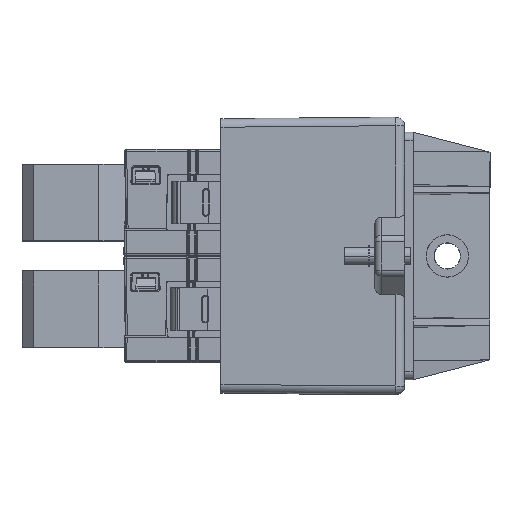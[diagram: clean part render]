
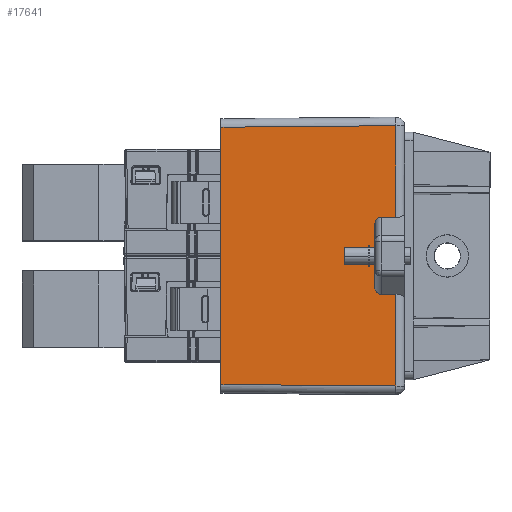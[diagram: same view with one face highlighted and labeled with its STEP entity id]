
A CAD part, top view. The second image highlights one B-rep face of the part: STEP entity #17641.
In plain terms, the highlighted planar face has unit normal (-0.009, 0, 1) as drawn and (-1, 0, -0.009) by its records, which use the part's own axes.
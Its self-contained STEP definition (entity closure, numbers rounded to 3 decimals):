
#9426=CARTESIAN_POINT(' ',(-21.219,-2.125,-3.5));
#9427=VERTEX_POINT(' ',#9426);
#9571=CARTESIAN_POINT(' ',(-21.219,2.125,-3.5));
#9572=VERTEX_POINT(' ',#9571);
#9586=CARTESIAN_POINT(' ',(-21.219,2.125,-3.5));
#9591=DIRECTION(' ',(0.,-1.,0.));
#9596=VECTOR(' ',#9591,1.);
#9601=LINE('',#9586,#9596);
#9606=EDGE_CURVE(' ',#9572,#9427,#9601,.T.);
#11571=CARTESIAN_POINT(' ',(-21.232,9.,-2.017));
#11572=VERTEX_POINT(' ',#11571);
#11616=CARTESIAN_POINT(' ',(-21.232,30.482,-2.017));
#11617=VERTEX_POINT(' ',#11616);
#11631=CARTESIAN_POINT(' ',(-21.232,9.,-2.017));
#11636=DIRECTION(' ',(0.,1.,0.));
#11641=VECTOR(' ',#11636,1.);
#11646=LINE('',#11631,#11641);
#11651=EDGE_CURVE(' ',#11572,#11617,#11646,.T.);
#11721=CARTESIAN_POINT(' ',(-21.202,9.,-5.505));
#11722=VERTEX_POINT(' ',#11721);
#11781=CARTESIAN_POINT(' ',(-21.202,9.,-5.505));
#11786=DIRECTION(' ',(-0.009,0.,1.));
#11791=VECTOR(' ',#11786,1.);
#11796=LINE('',#11781,#11791);
#11801=EDGE_CURVE(' ',#11722,#11572,#11796,.T.);
#12236=CARTESIAN_POINT(' ',(-21.202,-9.,-5.505));
#12237=VERTEX_POINT(' ',#12236);
#12251=CARTESIAN_POINT(' ',(-21.202,-9.,-5.505));
#12256=DIRECTION(' ',(-0.009,0.,1.));
#12261=VECTOR(' ',#12256,1.);
#12266=LINE('',#12251,#12261);
#12271=CARTESIAN_POINT(' ',(-21.232,-9.,-2.017));
#12272=VERTEX_POINT(' ',#12271);
#12276=EDGE_CURVE(' ',#12237,#12272,#12266,.T.);
#12381=CARTESIAN_POINT(' ',(-21.232,-30.482,-2.017));
#12386=DIRECTION(' ',(0.,1.,0.));
#12391=VECTOR(' ',#12386,1.);
#12396=LINE('',#12381,#12391);
#12401=CARTESIAN_POINT(' ',(-21.232,-30.482,-2.017));
#12402=VERTEX_POINT(' ',#12401);
#12406=EDGE_CURVE(' ',#12402,#12272,#12396,.T.);
#14106=CARTESIAN_POINT(' ',(-21.189,-2.143,-7.));
#14107=VERTEX_POINT(' ',#14106);
#14161=CARTESIAN_POINT(' ',(-21.219,-2.125,-3.5));
#14166=DIRECTION(' ',(0.009,-0.005,-1.));
#14171=VECTOR(' ',#14166,1.);
#14176=LINE('',#14161,#14171);
#14181=EDGE_CURVE(' ',#9427,#14107,#14176,.T.);
#14596=CARTESIAN_POINT(' ',(-21.189,2.143,-7.));
#14597=VERTEX_POINT(' ',#14596);
#14611=CARTESIAN_POINT(' ',(-21.219,2.125,-3.5));
#14616=DIRECTION(' ',(0.009,0.005,-1.));
#14621=VECTOR(' ',#14616,1.);
#14626=LINE('',#14611,#14621);
#14631=EDGE_CURVE(' ',#9572,#14597,#14626,.T.);
#16891=CARTESIAN_POINT(' ',(-21.232,30.482,-2.017));
#16896=DIRECTION(' ',(0.009,-0.009,-1.));
#16901=VECTOR(' ',#16896,1.);
#16906=LINE('',#16891,#16901);
#16911=CARTESIAN_POINT(' ',(-20.875,30.125,-43.));
#16912=VERTEX_POINT(' ',#16911);
#16916=EDGE_CURVE(' ',#11617,#16912,#16906,.T.);
#17331=DIRECTION(' ',(-1.,0.,-0.009));
#17336=CARTESIAN_POINT(' ',(-20.875,-30.482,-43.));
#17341=DIRECTION(' ',(-0.009,0.,1.));
#17346=AXIS2_PLACEMENT_3D(' ',#17336,#17331,#17341);
#17351=PLANE('NONE',#17346);
#17356=ORIENTED_EDGE(' ',*,*,#14181,.F.);
#17361=ORIENTED_EDGE(' ',*,*,#9606,.F.);
#17366=ORIENTED_EDGE(' ',*,*,#14631,.T.);
#17371=CARTESIAN_POINT(' ',(-21.189,2.143,-7.));
#17376=DIRECTION(' ',(0.,1.,0.));
#17381=VECTOR(' ',#17376,1.);
#17386=LINE('',#17371,#17381);
#17391=CARTESIAN_POINT(' ',(-21.189,7.351,-7.));
#17392=VERTEX_POINT(' ',#17391);
#17396=EDGE_CURVE(' ',#14597,#17392,#17386,.T.);
#17401=ORIENTED_EDGE(' ',*,*,#17396,.T.);
#17406=CARTESIAN_POINT(' ',(-21.189,7.351,-7.));
#17411=CARTESIAN_POINT(' ',(-21.189,7.691,-7.));
#17416=CARTESIAN_POINT(' ',(-21.19,8.08,-6.89));
#17421=CARTESIAN_POINT(' ',(-21.194,8.675,-6.461));
#17426=CARTESIAN_POINT(' ',(-21.196,8.891,-6.133));
#17431=CARTESIAN_POINT(' ',(-21.2,8.989,-5.709));
#17436=CARTESIAN_POINT(' ',(-21.201,9.,-5.606));
#17441=CARTESIAN_POINT(' ',(-21.202,9.,-5.505));
#17446=B_SPLINE_CURVE_WITH_KNOTS('',3,(#17406,#17411,#17416,#17421,#17426,#17431,#17436,#17441),.UNSPECIFIED.,.F.,.U.,(4,2,2,4),(0.,0.43,0.86,1.),.UNSPECIFIED.);
#17451=EDGE_CURVE(' ',#17392,#11722,#17446,.T.);
#17456=ORIENTED_EDGE(' ',*,*,#17451,.T.);
#17461=ORIENTED_EDGE(' ',*,*,#11801,.T.);
#17466=ORIENTED_EDGE(' ',*,*,#11651,.T.);
#17471=ORIENTED_EDGE(' ',*,*,#16916,.T.);
#17476=CARTESIAN_POINT(' ',(-20.875,-30.125,-43.));
#17481=DIRECTION(' ',(0.,1.,0.));
#17486=VECTOR(' ',#17481,1.);
#17491=LINE('',#17476,#17486);
#17496=CARTESIAN_POINT(' ',(-20.875,-30.125,-43.));
#17497=VERTEX_POINT(' ',#17496);
#17501=EDGE_CURVE(' ',#17497,#16912,#17491,.T.);
#17506=ORIENTED_EDGE(' ',*,*,#17501,.F.);
#17511=CARTESIAN_POINT(' ',(-20.875,-30.125,-43.));
#17516=DIRECTION(' ',(-0.009,-0.009,1.));
#17521=VECTOR(' ',#17516,1.);
#17526=LINE('',#17511,#17521);
#17531=EDGE_CURVE(' ',#17497,#12402,#17526,.T.);
#17536=ORIENTED_EDGE(' ',*,*,#17531,.T.);
#17541=ORIENTED_EDGE(' ',*,*,#12406,.T.);
#17546=ORIENTED_EDGE(' ',*,*,#12276,.F.);
#17551=CARTESIAN_POINT(' ',(-21.202,-9.,-5.505));
#17556=CARTESIAN_POINT(' ',(-21.199,-9.,-5.862));
#17561=CARTESIAN_POINT(' ',(-21.196,-8.857,-6.244));
#17566=CARTESIAN_POINT(' ',(-21.19,-8.212,-6.849));
#17571=CARTESIAN_POINT(' ',(-21.189,-7.755,-7.));
#17576=CARTESIAN_POINT(' ',(-21.189,-7.351,-7.));
#17581=B_SPLINE_CURVE_WITH_KNOTS('',3,(#17551,#17556,#17561,#17566,#17571,#17576),.UNSPECIFIED.,.F.,.U.,(4,2,4),(0.,0.495,1.),.UNSPECIFIED.);
#17586=CARTESIAN_POINT(' ',(-21.189,-7.351,-7.));
#17587=VERTEX_POINT(' ',#17586);
#17591=EDGE_CURVE(' ',#12237,#17587,#17581,.T.);
#17596=ORIENTED_EDGE(' ',*,*,#17591,.T.);
#17601=CARTESIAN_POINT(' ',(-21.189,-7.351,-7.));
#17606=DIRECTION(' ',(0.,1.,0.));
#17611=VECTOR(' ',#17606,1.);
#17616=LINE('',#17601,#17611);
#17621=EDGE_CURVE(' ',#17587,#14107,#17616,.T.);
#17626=ORIENTED_EDGE(' ',*,*,#17621,.T.);
#17631=EDGE_LOOP(' ',(#17356,#17361,#17366,#17401,#17456,#17461,#17466,#17471,#17506,#17536,#17541,#17546,#17596,#17626));
#17636=FACE_OUTER_BOUND(' ',#17631,.T.);
#17641=ADVANCED_FACE('NONE',(#17636),#17351,.T.);
